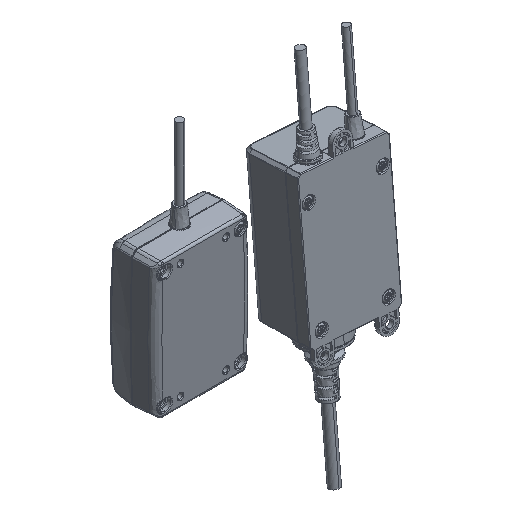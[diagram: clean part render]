
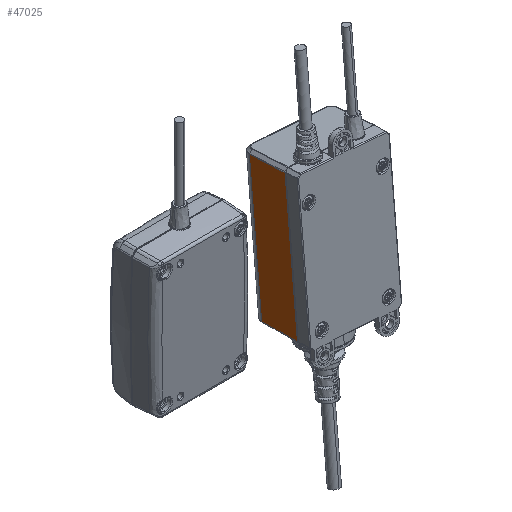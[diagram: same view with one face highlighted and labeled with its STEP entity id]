
A CAD part, isometric view. The second image highlights one B-rep face of the part: STEP entity #47025.
In plain terms, the highlighted planar face has unit normal (-0.997, 0.083, 0.01).
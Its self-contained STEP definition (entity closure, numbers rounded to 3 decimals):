
#1291 = VERTEX_POINT ( 'NONE', #19393 ) ;
#1296 = VERTEX_POINT ( 'NONE', #19385 ) ;
#1308 = VERTEX_POINT ( 'NONE', #19368 ) ;
#1314 = VERTEX_POINT ( 'NONE', #19359 ) ;
#15617 = ORIENTED_EDGE ( 'NONE', *, *, #42165, .T. ) ;
#15619 = ORIENTED_EDGE ( 'NONE', *, *, #42156, .T. ) ;
#15620 = ORIENTED_EDGE ( 'NONE', *, *, #42177, .F. ) ;
#15622 = ORIENTED_EDGE ( 'NONE', *, *, #42128, .T. ) ;
#18523 = DIRECTION ( 'NONE',  ( -0.019, -0.109, -0.994 ) ) ;
#18589 = CARTESIAN_POINT ( 'NONE',  ( 65.004, 13.873, -88.623 ) ) ;
#19359 = CARTESIAN_POINT ( 'NONE',  ( 62.838, -12.771, -83.361 ) ) ;
#19368 = CARTESIAN_POINT ( 'NONE',  ( 64.693, -2.358, 11.49 ) ) ;
#19385 = CARTESIAN_POINT ( 'NONE',  ( 65.058, 14.174, -85.885 ) ) ;
#19393 = CARTESIAN_POINT ( 'NONE',  ( 66.894, 24.483, 8.024 ) ) ;
#27713 = CARTESIAN_POINT ( 'NONE',  ( 62.77, -13.317, -85.594 ) ) ;
#27757 = PLANE ( 'NONE',  #33869 ) ;
#27769 = DIRECTION ( 'NONE',  ( -0.996, 0.083, 0.01 ) ) ;
#27770 = DIRECTION ( 'NONE',  ( 0.081, 0.991, -0.11 ) ) ;
#31499 = EDGE_LOOP ( 'NONE', ( #15620, #15617, #15622, #15619 ) ) ;
#33555 = CARTESIAN_POINT ( 'NONE',  ( 62.814, -13.072, -83.332 ) ) ;
#33869 = AXIS2_PLACEMENT_3D ( 'NONE', #27713, #27769, #27770 ) ;
#34043 = DIRECTION ( 'NONE',  ( -0.082, -0.992, 0.093 ) ) ;
#34044 = CARTESIAN_POINT ( 'NONE',  ( 66.894, 24.479, 8.024 ) ) ;
#34056 = DIRECTION ( 'NONE',  ( -0.019, -0.109, -0.994 ) ) ;
#34060 = DIRECTION ( 'NONE',  ( 0.081, 0.988, -0.128 ) ) ;
#34076 = CARTESIAN_POINT ( 'NONE',  ( 62.794, -13.02, -85.627 ) ) ;
#36827 = LINE ( 'NONE', #18589, #36829 ) ;
#36829 = VECTOR ( 'NONE', #18523, 1000. ) ;
#36840 = VECTOR ( 'NONE', #34060, 1000. ) ;
#36851 = LINE ( 'NONE', #33555, #36854 ) ;
#36854 = VECTOR ( 'NONE', #34043, 1000. ) ;
#36863 = LINE ( 'NONE', #34044, #36840 ) ;
#36882 = LINE ( 'NONE', #34076, #36885 ) ;
#36885 = VECTOR ( 'NONE', #34056, 1000. ) ;
#42128 = EDGE_CURVE ( 'NONE', #1291, #1296, #36827, .T. ) ;
#42156 = EDGE_CURVE ( 'NONE', #1296, #1314, #36851, .T. ) ;
#42165 = EDGE_CURVE ( 'NONE', #1308, #1291, #36863, .T. ) ;
#42177 = EDGE_CURVE ( 'NONE', #1308, #1314, #36882, .T. ) ;
#45014 = FACE_OUTER_BOUND ( 'NONE', #31499, .T. ) ;
#47025 = ADVANCED_FACE ( 'NONE', ( #45014 ), #27757, .T. ) ;
